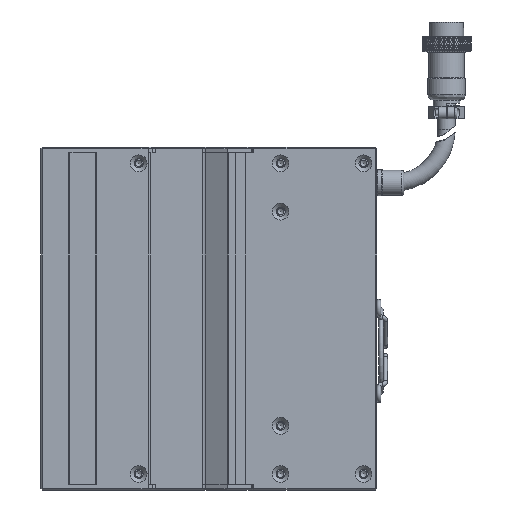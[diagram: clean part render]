
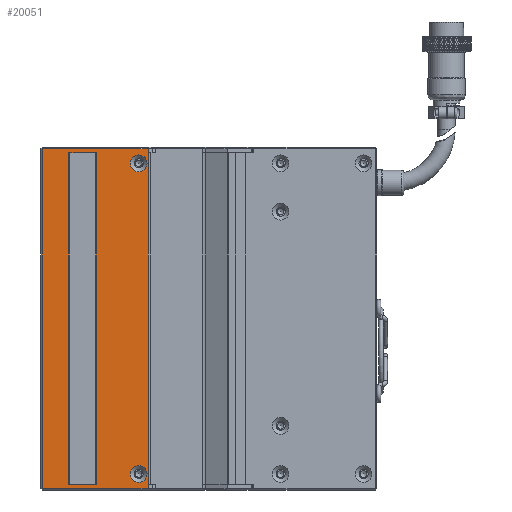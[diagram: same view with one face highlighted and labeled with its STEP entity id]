
A CAD part, left-side view. The second image highlights one B-rep face of the part: STEP entity #20051.
In plain terms, the highlighted planar face has unit normal (-1, 0, 0).
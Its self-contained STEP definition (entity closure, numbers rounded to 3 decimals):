
#63 = VERTEX_POINT ( 'NONE', #111075 ) ;
#99 = VECTOR ( 'NONE', #14482, 1000. ) ;
#1111 = ORIENTED_EDGE ( 'NONE', *, *, #79134, .F. ) ;
#1441 = EDGE_LOOP ( 'NONE', ( #54923, #33638, #37635, #75798, #29300, #65905, #95453, #26433, #109876, #106087, #41981, #87518 ) ) ;
#2223 = VECTOR ( 'NONE', #93299, 1000. ) ;
#2541 = VERTEX_POINT ( 'NONE', #33096 ) ;
#2620 = EDGE_CURVE ( 'NONE', #107388, #12027, #86925, .T. ) ;
#2626 = CARTESIAN_POINT ( 'NONE',  ( -17., 13., 62. ) ) ;
#3842 = EDGE_CURVE ( 'NONE', #63, #115673, #48465, .T. ) ;
#5632 = CARTESIAN_POINT ( 'NONE',  ( -17., 52.5, 62. ) ) ;
#6146 = VERTEX_POINT ( 'NONE', #43778 ) ;
#9059 = DIRECTION ( 'NONE',  ( 0., 0., -1. ) ) ;
#9423 = VECTOR ( 'NONE', #53577, 1000. ) ;
#9963 = ORIENTED_EDGE ( 'NONE', *, *, #102227, .F. ) ;
#11125 = DIRECTION ( 'NONE',  ( 0., 1., 0. ) ) ;
#12027 = VERTEX_POINT ( 'NONE', #103815 ) ;
#12043 = EDGE_CURVE ( 'NONE', #40123, #40123, #47628, .T. ) ;
#14355 = DIRECTION ( 'NONE',  ( 0., 0., 1. ) ) ;
#14482 = DIRECTION ( 'NONE',  ( 0., 0., -1. ) ) ;
#17897 = VERTEX_POINT ( 'NONE', #59281 ) ;
#18222 = PLANE ( 'NONE',  #100979 ) ;
#19641 = LINE ( 'NONE', #70899, #116780 ) ;
#19689 = CARTESIAN_POINT ( 'NONE',  ( -17., 11.505, 62. ) ) ;
#19953 = DIRECTION ( 'NONE',  ( 0., 0., 1. ) ) ;
#20051 = ADVANCED_FACE ( 'NONE', ( #26299, #119097, #82198, #52807 ), #18222, .F. ) ;
#20946 = LINE ( 'NONE', #29143, #118099 ) ;
#24755 = CARTESIAN_POINT ( 'NONE',  ( -17., 42.55, 62. ) ) ;
#25666 = DIRECTION ( 'NONE',  ( -1., 0., 0. ) ) ;
#25905 = ORIENTED_EDGE ( 'NONE', *, *, #54426, .T. ) ;
#26299 = FACE_BOUND ( 'NONE', #97619, .T. ) ;
#26433 = ORIENTED_EDGE ( 'NONE', *, *, #64998, .F. ) ;
#27522 = CARTESIAN_POINT ( 'NONE',  ( -17., 32.35, 62. ) ) ;
#27652 = DIRECTION ( 'NONE',  ( 1., 0., 0. ) ) ;
#28523 = CARTESIAN_POINT ( 'NONE',  ( -17., 13.005, 62. ) ) ;
#29143 = CARTESIAN_POINT ( 'NONE',  ( -17., 52.505, 62. ) ) ;
#29300 = ORIENTED_EDGE ( 'NONE', *, *, #65823, .F. ) ;
#30010 = VECTOR ( 'NONE', #39026, 1000. ) ;
#31161 = VERTEX_POINT ( 'NONE', #79505 ) ;
#33096 = CARTESIAN_POINT ( 'NONE',  ( -17., 52.5, -62. ) ) ;
#33638 = ORIENTED_EDGE ( 'NONE', *, *, #46976, .F. ) ;
#34498 = LINE ( 'NONE', #2626, #53579 ) ;
#36070 = CARTESIAN_POINT ( 'NONE',  ( -17., 52.505, 62. ) ) ;
#36656 = VECTOR ( 'NONE', #63469, 1000. ) ;
#37477 = LINE ( 'NONE', #66634, #54980 ) ;
#37534 = VERTEX_POINT ( 'NONE', #119553 ) ;
#37635 = ORIENTED_EDGE ( 'NONE', *, *, #95486, .F. ) ;
#39026 = DIRECTION ( 'NONE',  ( 0., -1., 0. ) ) ;
#39377 = VERTEX_POINT ( 'NONE', #46169 ) ;
#40123 = VERTEX_POINT ( 'NONE', #77905 ) ;
#41981 = ORIENTED_EDGE ( 'NONE', *, *, #99184, .T. ) ;
#43566 = VECTOR ( 'NONE', #48216, 1000. ) ;
#43778 = CARTESIAN_POINT ( 'NONE',  ( -17., 16.5, -54.85 ) ) ;
#44230 = AXIS2_PLACEMENT_3D ( 'NONE', #100051, #25666, #52362 ) ;
#45469 = LINE ( 'NONE', #63880, #36656 ) ;
#46080 = VECTOR ( 'NONE', #58418, 1000. ) ;
#46169 = CARTESIAN_POINT ( 'NONE',  ( -17., 32.35, -62. ) ) ;
#46976 = EDGE_CURVE ( 'NONE', #17897, #2541, #45469, .T. ) ;
#47628 = CIRCLE ( 'NONE', #118675, 3.15 ) ;
#47914 = CARTESIAN_POINT ( 'NONE',  ( -17., 16.5, 58. ) ) ;
#48216 = DIRECTION ( 'NONE',  ( 0., 0., 1. ) ) ;
#48244 = VECTOR ( 'NONE', #98365, 1000. ) ;
#48465 = LINE ( 'NONE', #76438, #74967 ) ;
#49194 = CARTESIAN_POINT ( 'NONE',  ( -17., 52.5, 62. ) ) ;
#52362 = DIRECTION ( 'NONE',  ( 0., 0., 1. ) ) ;
#52713 = VERTEX_POINT ( 'NONE', #81114 ) ;
#52807 = FACE_BOUND ( 'NONE', #101726, .T. ) ;
#53577 = DIRECTION ( 'NONE',  ( 0., 0., -1. ) ) ;
#53579 = VECTOR ( 'NONE', #57292, 1000. ) ;
#54426 = EDGE_CURVE ( 'NONE', #37534, #39377, #80132, .T. ) ;
#54581 = EDGE_CURVE ( 'NONE', #31161, #37534, #105025, .T. ) ;
#54923 = ORIENTED_EDGE ( 'NONE', *, *, #92992, .T. ) ;
#54980 = VECTOR ( 'NONE', #77271, 1000. ) ;
#55993 = LINE ( 'NONE', #24755, #99 ) ;
#57292 = DIRECTION ( 'NONE',  ( 0., -1., 0. ) ) ;
#58418 = DIRECTION ( 'NONE',  ( 0., -1., 0. ) ) ;
#59281 = CARTESIAN_POINT ( 'NONE',  ( -17., 52.505, -62. ) ) ;
#60156 = CARTESIAN_POINT ( 'NONE',  ( -17., 11.505, 62. ) ) ;
#60924 = ORIENTED_EDGE ( 'NONE', *, *, #54581, .T. ) ;
#61915 = VECTOR ( 'NONE', #81159, 1000. ) ;
#62359 = CARTESIAN_POINT ( 'NONE',  ( -17., 13., 62. ) ) ;
#63469 = DIRECTION ( 'NONE',  ( 0., -1., 0. ) ) ;
#63836 = DIRECTION ( 'NONE',  ( 0., 0., -1. ) ) ;
#63880 = CARTESIAN_POINT ( 'NONE',  ( -17., 11.505, -62. ) ) ;
#64597 = ORIENTED_EDGE ( 'NONE', *, *, #68941, .F. ) ;
#64998 = EDGE_CURVE ( 'NONE', #65661, #86637, #34498, .T. ) ;
#65661 = VERTEX_POINT ( 'NONE', #82282 ) ;
#65823 = EDGE_CURVE ( 'NONE', #107388, #63, #37477, .T. ) ;
#65905 = ORIENTED_EDGE ( 'NONE', *, *, #2620, .T. ) ;
#66634 = CARTESIAN_POINT ( 'NONE',  ( -17., 13.005, -62. ) ) ;
#68258 = CARTESIAN_POINT ( 'NONE',  ( -17., 11.505, -62. ) ) ;
#68941 = EDGE_CURVE ( 'NONE', #52713, #39377, #99007, .T. ) ;
#70055 = CARTESIAN_POINT ( 'NONE',  ( -17., 52.505, 63.5 ) ) ;
#70899 = CARTESIAN_POINT ( 'NONE',  ( -17., 53.005, 63.5 ) ) ;
#73837 = CARTESIAN_POINT ( 'NONE',  ( -17., 13.005, 63.5 ) ) ;
#74205 = VERTEX_POINT ( 'NONE', #5632 ) ;
#74639 = VERTEX_POINT ( 'NONE', #36070 ) ;
#74933 = EDGE_CURVE ( 'NONE', #86637, #12027, #112423, .T. ) ;
#74967 = VECTOR ( 'NONE', #11125, 1000. ) ;
#75006 = DIRECTION ( 'NONE',  ( -1., 0., 0. ) ) ;
#75743 = EDGE_CURVE ( 'NONE', #79800, #94033, #19641, .T. ) ;
#75798 = ORIENTED_EDGE ( 'NONE', *, *, #3842, .F. ) ;
#76438 = CARTESIAN_POINT ( 'NONE',  ( -17., 53.005, -63.5 ) ) ;
#77271 = DIRECTION ( 'NONE',  ( 0., 0., -1. ) ) ;
#77281 = EDGE_LOOP ( 'NONE', ( #1111 ) ) ;
#77905 = CARTESIAN_POINT ( 'NONE',  ( -17., 16.5, 61.15 ) ) ;
#79134 = EDGE_CURVE ( 'NONE', #6146, #6146, #109778, .T. ) ;
#79278 = CARTESIAN_POINT ( 'NONE',  ( -17., 52.505, -62. ) ) ;
#79290 = EDGE_CURVE ( 'NONE', #65661, #79800, #93603, .T. ) ;
#79505 = CARTESIAN_POINT ( 'NONE',  ( -17., 42.55, 62. ) ) ;
#79800 = VERTEX_POINT ( 'NONE', #73837 ) ;
#80132 = LINE ( 'NONE', #27522, #2223 ) ;
#80806 = DIRECTION ( 'NONE',  ( 0., 1., 0. ) ) ;
#81114 = CARTESIAN_POINT ( 'NONE',  ( -17., 42.55, -62. ) ) ;
#81159 = DIRECTION ( 'NONE',  ( 0., -1., 0. ) ) ;
#82086 = LINE ( 'NONE', #60156, #48244 ) ;
#82198 = FACE_BOUND ( 'NONE', #77281, .T. ) ;
#82282 = CARTESIAN_POINT ( 'NONE',  ( -17., 13.005, 62. ) ) ;
#86607 = DIRECTION ( 'NONE',  ( 0., 0., -1. ) ) ;
#86637 = VERTEX_POINT ( 'NONE', #62359 ) ;
#86925 = LINE ( 'NONE', #91030, #61915 ) ;
#87518 = ORIENTED_EDGE ( 'NONE', *, *, #105377, .T. ) ;
#88091 = CARTESIAN_POINT ( 'NONE',  ( -17., 13.005, -62. ) ) ;
#88204 = VECTOR ( 'NONE', #86607, 1000. ) ;
#88677 = LINE ( 'NONE', #79278, #112332 ) ;
#91030 = CARTESIAN_POINT ( 'NONE',  ( -17., 13., -62. ) ) ;
#92992 = EDGE_CURVE ( 'NONE', #74205, #2541, #113265, .T. ) ;
#93299 = DIRECTION ( 'NONE',  ( 0., 0., -1. ) ) ;
#93603 = LINE ( 'NONE', #28523, #43566 ) ;
#94033 = VERTEX_POINT ( 'NONE', #70055 ) ;
#95453 = ORIENTED_EDGE ( 'NONE', *, *, #74933, .F. ) ;
#95486 = EDGE_CURVE ( 'NONE', #115673, #17897, #88677, .T. ) ;
#97619 = EDGE_LOOP ( 'NONE', ( #9963, #60924, #25905, #64597 ) ) ;
#98365 = DIRECTION ( 'NONE',  ( 0., -1., 0. ) ) ;
#99007 = LINE ( 'NONE', #68258, #46080 ) ;
#99184 = EDGE_CURVE ( 'NONE', #94033, #74639, #20946, .T. ) ;
#100051 = CARTESIAN_POINT ( 'NONE',  ( -17., 16.5, -58. ) ) ;
#100979 = AXIS2_PLACEMENT_3D ( 'NONE', #101639, #27652, #63836 ) ;
#101639 = CARTESIAN_POINT ( 'NONE',  ( -17., 42.55, 62. ) ) ;
#101726 = EDGE_LOOP ( 'NONE', ( #108387 ) ) ;
#102227 = EDGE_CURVE ( 'NONE', #31161, #52713, #55993, .T. ) ;
#103815 = CARTESIAN_POINT ( 'NONE',  ( -17., 13., -62. ) ) ;
#105025 = LINE ( 'NONE', #19689, #30010 ) ;
#105377 = EDGE_CURVE ( 'NONE', #74639, #74205, #82086, .T. ) ;
#106087 = ORIENTED_EDGE ( 'NONE', *, *, #75743, .T. ) ;
#107388 = VERTEX_POINT ( 'NONE', #88091 ) ;
#108387 = ORIENTED_EDGE ( 'NONE', *, *, #12043, .F. ) ;
#109778 = CIRCLE ( 'NONE', #44230, 3.15 ) ;
#109876 = ORIENTED_EDGE ( 'NONE', *, *, #79290, .T. ) ;
#111075 = CARTESIAN_POINT ( 'NONE',  ( -17., 13.005, -63.5 ) ) ;
#112332 = VECTOR ( 'NONE', #14355, 1000. ) ;
#112423 = LINE ( 'NONE', #119435, #9423 ) ;
#113265 = LINE ( 'NONE', #49194, #88204 ) ;
#115063 = CARTESIAN_POINT ( 'NONE',  ( -17., 52.505, -63.5 ) ) ;
#115673 = VERTEX_POINT ( 'NONE', #115063 ) ;
#116780 = VECTOR ( 'NONE', #80806, 1000. ) ;
#118099 = VECTOR ( 'NONE', #9059, 1000. ) ;
#118675 = AXIS2_PLACEMENT_3D ( 'NONE', #47914, #75006, #19953 ) ;
#119097 = FACE_OUTER_BOUND ( 'NONE', #1441, .T. ) ;
#119435 = CARTESIAN_POINT ( 'NONE',  ( -17., 13., 62. ) ) ;
#119553 = CARTESIAN_POINT ( 'NONE',  ( -17., 32.35, 62. ) ) ;
